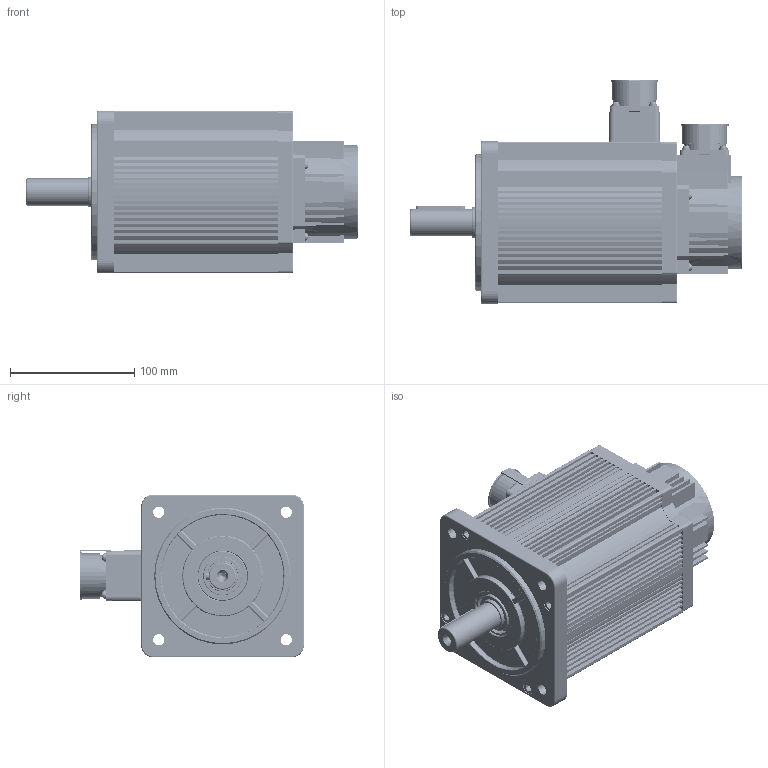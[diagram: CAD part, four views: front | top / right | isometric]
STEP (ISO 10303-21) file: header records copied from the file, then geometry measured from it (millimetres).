
FILE_DESCRIPTION (( 'STEP AP203' ), '1' );
FILE_NAME ('K1-130×°Åä 10Nm 2500Rpm.STEP', '2019-12-23T05:24:29', ( 'gs' ), ( 'Microsoft' ), 'SwSTEP 2.0', 'SolidWorks 2019', '' );
FILE_SCHEMA (( 'CONFIG_CONTROL_DESIGN' ));
Length unit declared in the file: millimetre
Products named in the file (24): M6粟菜; K1-130蚾饜 10Nm 2500Rpm; K1-110晤鎢ん誘欶; M6X20; K1-130儂褲樓馱綴10Nm 2500Rpm; K1-130密封圈; K1-130盄簽砎蝶菜; K1-130瑤脣砎蝶菜; K1-130隅赽郪璃10Nm 2500Rpm; K1-130誘欶躇猾菜; K1-130瑤脣15郋; K1-130諉盄釱; K1-130ヶ傷裔 譙跡; curved single coil spring lock washers gb_GB_FASTENER_WASHER_CSLW 4; M3X12啋儂; M3X8啋儂; K1-130綴傷裔 譙跡; M3X8囀鞠褒; K1-130す瑩; M4X16啋儂; K1-130粣(10Nm 2500Rpm); M3す菜; K1-130瑤脣雄薯盄; K1-130蛌赽郪璃10Nm 2500Rpm
Assembly tree (79 placements, depth 3):
  K1-130蚾饜 10Nm 2500Rpm
    K1-130隅赽郪璃10Nm 2500Rpm
      K1-130儂褲樓馱綴10Nm 2500Rpm
    K1-130ヶ傷裔 譙跡
    K1-130綴傷裔 譙跡
    K1-130蛌赽郪璃10Nm 2500Rpm
      K1-130粣(10Nm 2500Rpm)
    K1-110晤鎢ん誘欶
    K1-130密封圈
    K1-130誘欶躇猾菜
    curved single coil spring lock washers gb_GB_FASTENER_WASHER_CSLW 4  x17
    M3X8囀鞠褒
    M3す菜  x13
    M6粟菜  x8
    M6X20  x8
    K1-130盄簽砎蝶菜  x2
    K1-130瑤脣15郋
    M3X12啋儂  x8
    K1-130す瑩
    K1-130瑤脣砎蝶菜
    K1-130諉盄釱
    M3X8啋儂  x4
    M4X16啋儂  x4
    K1-130瑤脣雄薯盄
Bounding box: 267 x 180.1 x 131 mm (x, y, z)
Volume: 943905.1 mm3; surface area: 462035.2 mm2
Topology: 79 solids, 81 shells, 3696 faces, 9961 edges, 6553 vertices
Faces by surface type: cylinder 2256, plane 1153, bspline 157, cone 70, torus 60
Entity records: 118650 total; most frequent: CARTESIAN_POINT 64537, ORIENTED_EDGE 11480, DIRECTION 9523, EDGE_CURVE 5740, VERTEX_POINT 3765, AXIS2_PLACEMENT_3D 3366, VECTOR 2791, LINE 2791
